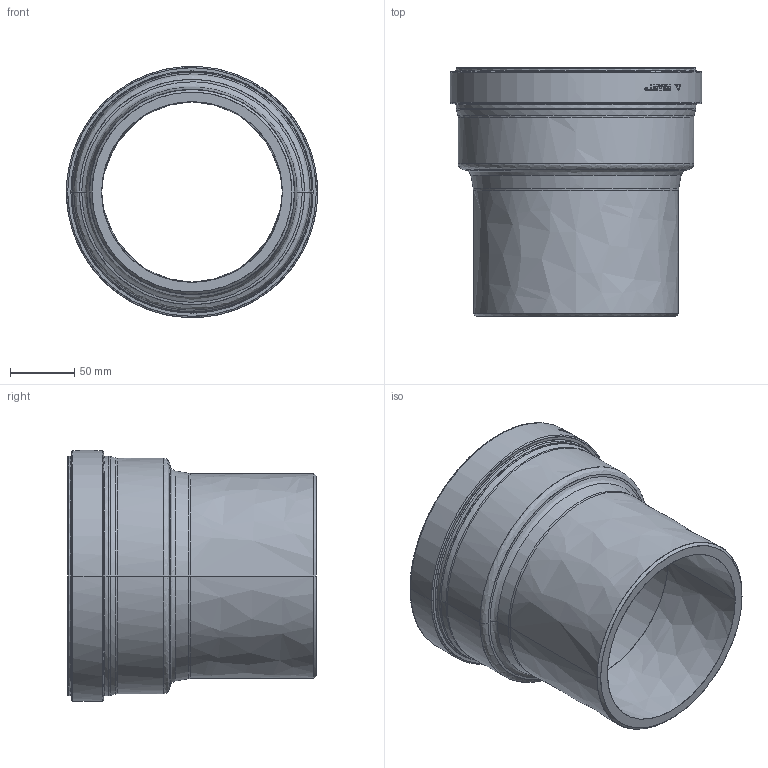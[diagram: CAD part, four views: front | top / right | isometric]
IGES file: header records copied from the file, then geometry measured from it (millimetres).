
Start section:  PTC IGES file: ukg_d160_dn150.igs
Global section: file name: ukg_d160_dn150.igs; native system: Pro/ENGINEER by Parametric Technology Corporation; preprocessor: 2011490; author: mtunjic; organization: Unknown; date: 20130724.102114; units: millimetre
Bounding box: 196 x 194 x 196 mm (x, y, z)
Surface area: 223467.7 mm2 (no closed solid volume)
Topology: 0 solids, 0 shells, 178 faces, 848 edges, 848 vertices
Faces by surface type: bspline 178
